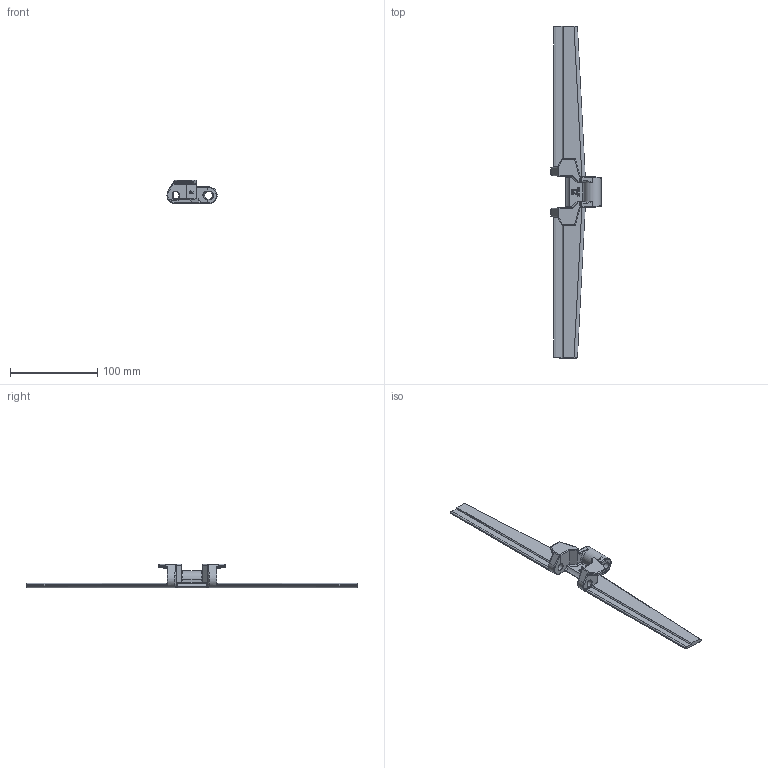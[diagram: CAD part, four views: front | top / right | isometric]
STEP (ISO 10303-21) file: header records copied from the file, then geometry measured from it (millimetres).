
FILE_DESCRIPTION((''),'2;1');
FILE_NAME('P-K1500','2012-08-09T',('mth'),(''),'PRO/ENGINEER BY PARAMETRIC TECHNOLOGY CORPORATION, 2012130','PRO/ENGINEER BY PARAMETRIC TECHNOLOGY CORPORATION, 2012130','');
FILE_SCHEMA(('AUTOMOTIVE_DESIGN { 1 0 10303 214 1 1 1 1 }'));
Length unit declared in the file: millimetre
Products named in the file (1): P-K1500
Bounding box: 57.49 x 380.95 x 27 mm (x, y, z)
Volume: 72739.9 mm3; surface area: 34225 mm2
Topology: 1 solids, 1 shells, 909 faces, 2463 edges, 1588 vertices
Faces by surface type: plane 680, cylinder 141, bspline 54, torus 24, sphere 10
Entity records: 40866 total; most frequent: CARTESIAN_POINT 18091, ORIENTED_EDGE 4926, DIRECTION 4128, EDGE_CURVE 2463, VECTOR 2066, LINE 2066, VERTEX_POINT 1588, AXIS2_PLACEMENT_3D 1031
